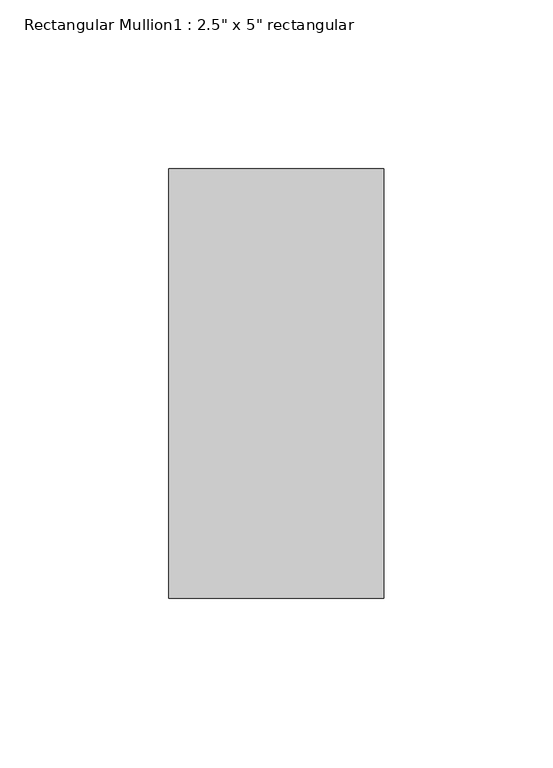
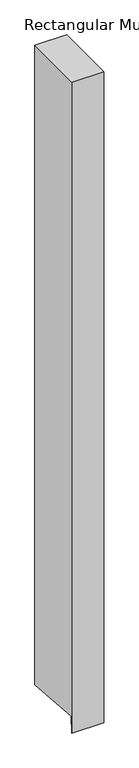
"""IFC4 building model written with IfcOpenShell, lengths in millimetres: member geometry."""

import ifcopenshell
import ifcopenshell.guid

model = None  # the IFC model being written
_history = None  # IfcOwnerHistory: only IFC2X3 demands one
_inside = {}  # id of a spatial element -> (the spatial element, [elements in it])
_under = {}  # id of a project, library or spatial element -> (it, [spatial elements below it])
_declared = {}  # id of a project -> (the project, [libraries it declares])
_typed = {}  # id of a type object -> (the type object, [elements of that type])
_made_of = {}  # id of a material, layer set ... -> (it, [elements and type objects made of it])


def new_model(schema):
    """Start an empty IFC model of exactly this schema.

    Asked for "IFC4X3", IfcOpenShell would pick the latest addendum, in which some entities
    have other attributes; the version numbers below select the first issue.
    IFC2X3 requires an IfcOwnerHistory on every rooted entity: one is made here for all.
    """
    global model, _history
    if schema == "IFC4X3":
        model = ifcopenshell.file(schema_version=(4, 3, 0, 0))
    else:
        model = ifcopenshell.file(schema=schema)
    _inside.clear()
    _under.clear()
    _declared.clear()
    _typed.clear()
    _made_of.clear()
    _history = None
    if model.schema == "IFC2X3":
        org = make("IfcOrganization", Name="unknown")
        user = make(
            "IfcPersonAndOrganization",
            ThePerson=make("IfcPerson", FamilyName="unknown"),
            TheOrganization=org,
        )
        app = make(
            "IfcApplication",
            ApplicationDeveloper=org,
            Version="unknown",
            ApplicationFullName="unknown",
            ApplicationIdentifier="unknown",
        )
        _history = make(
            "IfcOwnerHistory",
            OwningUser=user,
            OwningApplication=app,
            ChangeAction="ADDED",
            CreationDate=0,
        )
    return model


def make(cls, **values):
    """One entity of the class cls with the attributes given. An attribute that is None is left unset."""
    return model.create_entity(
        cls, **{name: value for name, value in values.items() if value is not None}
    )


def rooted(cls, **values):
    """An entity with a GlobalId (a new one), such as an element, a storey or a relation."""
    return make(cls, GlobalId=ifcopenshell.guid.new(), OwnerHistory=_history, **values)


def si_unit(unit_type, name, prefix=None):
    """IfcSIUnit, for example si_unit("LENGTHUNIT", "METRE", prefix="MILLI")."""
    return make("IfcSIUnit", UnitType=unit_type, Prefix=prefix, Name=name)


def assignment(units):
    """IfcUnitAssignment: the units of a project."""
    return None if units is None else make("IfcUnitAssignment", Units=units)


def point(xyz):
    """IfcCartesianPoint."""
    return None if xyz is None else make("IfcCartesianPoint", Coordinates=xyz)


def direction(xyz):
    """IfcDirection."""
    return None if xyz is None else make("IfcDirection", DirectionRatios=xyz)


def frame(location, z_axis=None, x_axis=None):
    """IfcAxis2Placement3D, a coordinate frame: its origin and axes. An axis left out is left unset."""
    return make(
        "IfcAxis2Placement3D",
        Location=point(location),
        Axis=direction(z_axis),
        RefDirection=direction(x_axis),
    )


def origin():
    """The frame at (0, 0, 0) with its axes left unset."""
    return frame((0.0, 0.0, 0.0))


def place(relative_to, where):
    """IfcLocalPlacement: puts the frame where relative to a parent placement (None: the world)."""
    return make(
        "IfcLocalPlacement", PlacementRelTo=relative_to, RelativePlacement=where
    )


def context(
    kind, dimensions, precision=None, world=None, true_north=None, identifier=None
):
    """IfcGeometricRepresentationContext, for example the 3D "Model" context."""
    return make(
        "IfcGeometricRepresentationContext",
        ContextIdentifier=identifier,
        ContextType=kind,
        CoordinateSpaceDimension=dimensions,
        Precision=precision,
        WorldCoordinateSystem=world,
        TrueNorth=true_north,
    )


def project(units=None, contexts=None):
    """IfcProject with its units and contexts."""
    return rooted(
        "IfcProject",
        Name="project",
        RepresentationContexts=contexts,
        UnitsInContext=assignment(units),
    )


def spatial(cls, under=None, at=None, **own):
    """A site, building, storey or space (cls), placed at a placement, below another one or the project."""
    s = rooted(cls, ObjectPlacement=at, **own)
    if under is not None:
        _under.setdefault(under.id(), (under, []))[1].append(s)
    return s


def polyline(points):
    """IfcPolyline through the points."""
    return make("IfcPolyline", Points=[point(p) for p in points])


def outline(outer, holes=None, kind="AREA"):
    """IfcArbitraryClosedProfileDef: a profile drawn as a closed curve; with holes, ...WithVoids."""
    if holes is None:
        return make("IfcArbitraryClosedProfileDef", ProfileType=kind, OuterCurve=outer)
    return make(
        "IfcArbitraryProfileDefWithVoids",
        ProfileType=kind,
        OuterCurve=outer,
        InnerCurves=holes,
    )


def extrude(swept, where, along, depth):
    """IfcExtrudedAreaSolid: the profile swept, set in the frame where, extruded along a direction by depth."""
    return make(
        "IfcExtrudedAreaSolid",
        SweptArea=swept,
        Position=where,
        ExtrudedDirection=direction(along),
        Depth=depth,
    )


def shape(context_of_items, identifier, shape_type, items):
    """IfcShapeRepresentation: the items that make up one representation, for example the "Body"."""
    return make(
        "IfcShapeRepresentation",
        ContextOfItems=context_of_items,
        RepresentationIdentifier=identifier,
        RepresentationType=shape_type,
        Items=items,
    )


def source(mapping_origin, context_of_items, identifier, shape_type, items):
    """IfcRepresentationMap: a shape defined once, which mapped items show again and again."""
    return make(
        "IfcRepresentationMap",
        MappingOrigin=mapping_origin,
        MappedRepresentation=shape(context_of_items, identifier, shape_type, items),
    )


def transform(
    local_origin,
    x_axis=None,
    y_axis=None,
    z_axis=None,
    scale=None,
    scale2=None,
    scale3=None,
    uniform=True,
):
    """IfcCartesianTransformationOperator3D, or its non-uniform kind. x_axis, y_axis, z_axis: its Axis1, 2, 3."""
    if uniform:
        return make(
            "IfcCartesianTransformationOperator3D",
            Axis1=direction(x_axis),
            Axis2=direction(y_axis),
            LocalOrigin=point(local_origin),
            Scale=scale,
            Axis3=direction(z_axis),
        )
    return make(
        "IfcCartesianTransformationOperator3DnonUniform",
        Axis1=direction(x_axis),
        Axis2=direction(y_axis),
        LocalOrigin=point(local_origin),
        Scale=scale,
        Axis3=direction(z_axis),
        Scale2=scale2,
        Scale3=scale3,
    )


def mapped(mapping_source, mapping_target):
    """IfcMappedItem: shows the shape of a source again, moved by a transform."""
    return make(
        "IfcMappedItem", MappingSource=mapping_source, MappingTarget=mapping_target
    )


def made_of(thing, what):
    """Note that an element or type object is made of a material, layer set ...; save() writes the relation."""
    if what is not None:
        _made_of.setdefault(what.id(), (what, []))[1].append(thing)
    return thing


def element(
    cls,
    number,
    at=None,
    inside=None,
    cuts=None,
    type_object=None,
    material=None,
    context=None,
    identifier="Body",
    shape_type=None,
    held_by="IfcProductDefinitionShape",
    body=None,
    shapes=None,
    **own,
):
    """One element of the class cls, such as IfcWall. Its Tag is "e" and its number.

    at: its placement. inside: the storey or other place that contains it. cuts: it is an
    opening in that element (IfcRelVoidsElement). A single representation is given by context,
    identifier, shape_type and body (its items); several are given by shapes. held_by: the class
    of the entity that holds the representations. save() writes the other relations.
    """
    e = rooted(cls, Tag="e%d" % number, ObjectPlacement=at, **own)
    if body is not None:
        shapes = [shape(context, identifier, shape_type, body)]
    if shapes is not None:
        e.Representation = make(held_by, Representations=shapes)
    if inside is not None:
        _inside.setdefault(inside.id(), (inside, []))[1].append(e)
    if cuts is not None:
        rooted(
            "IfcRelVoidsElement", RelatingBuildingElement=cuts, RelatedOpeningElement=e
        )
    if type_object is not None:
        _typed.setdefault(type_object.id(), (type_object, []))[1].append(e)
    return made_of(e, material)


def aggregate(whole, parts):
    """IfcRelAggregates: a whole, such as a stair, and the parts it consists of."""
    return rooted("IfcRelAggregates", RelatingObject=whole, RelatedObjects=parts)


def save(model, path):
    """Write the relations noted so far, then the file.

    IfcRelAggregates (storeys below a building ...), IfcRelContainedInSpatialStructure (elements
    in a storey), IfcRelDefinesByType, IfcRelAssociatesMaterial and IfcRelDeclares: one each for
    every whole, place, type object, material and project.
    """
    for whole, parts in _under.values():
        aggregate(whole, parts)
    for where, things in _inside.values():
        rooted(
            "IfcRelContainedInSpatialStructure",
            RelatedElements=things,
            RelatingStructure=where,
        )
    for kind, things in _typed.values():
        rooted("IfcRelDefinesByType", RelatedObjects=things, RelatingType=kind)
    for what, things in _made_of.values():
        rooted("IfcRelAssociatesMaterial", RelatedObjects=things, RelatingMaterial=what)
    for by, libraries in _declared.values():
        rooted("IfcRelDeclares", RelatingContext=by, RelatedDefinitions=libraries)
    model.write(path)


def member_2f5ef470(model_context):
    return source(origin(), model_context, "Body", "SweptSolid", [
        extrude(outline(polyline([(-63.5, 0.0), (63.5, 0.0), (63.5, -1344.0500431), (-60.9736199, -1334.8041085), (-63.5, -1368.815562), (-63.5, 0.0)])), frame((-63.5, 0.0, 0.0), z_axis=(1.0, 0.0, 0.0), x_axis=(0.0, 1.0, 0.0)), (0.0, 0.0, 1.0), 63.5),
    ])


if __name__ == "__main__":
    model = new_model("IFC4")
    model_context = context("Model", 3, world=origin())
    ifc_project = project(units=[si_unit("LENGTHUNIT", "METRE", prefix="MILLI")], contexts=[model_context])
    site = spatial("IfcSite", under=ifc_project)
    building = spatial("IfcBuilding", under=site)
    placement = place(None, origin())
    member_shape = member_2f5ef470(model_context)
    element("IfcMember", 1, ObjectType="Rectangular Mullion1 : 2.5\" x 5\" rectangular", at=placement, inside=building, context=model_context, shape_type="MappedRepresentation", body=[
        mapped(member_shape, transform((0.0, 0.0, 0.0), x_axis=(1.0, 0.0, 0.0), y_axis=(0.0, 1.0, 0.0), z_axis=(0.0, 0.0, 1.0))),
    ])
    save(model, "model.ifc")
